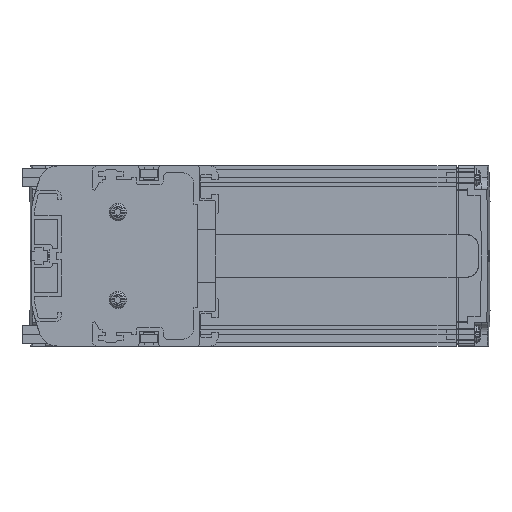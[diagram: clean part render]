
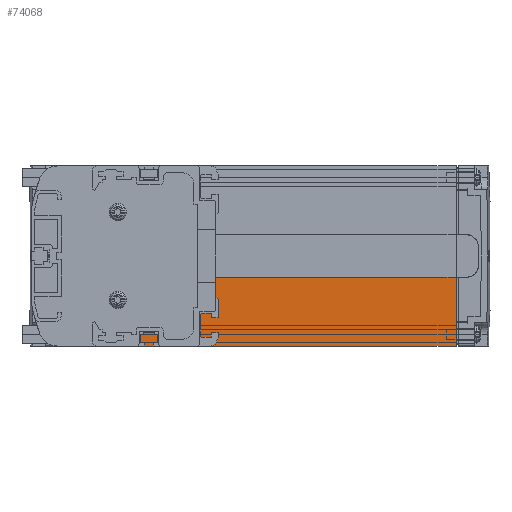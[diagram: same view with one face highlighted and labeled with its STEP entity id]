
A CAD part, left-side view. The second image highlights one B-rep face of the part: STEP entity #74068.
In plain terms, the highlighted planar face has unit normal (-1, 0, 0).
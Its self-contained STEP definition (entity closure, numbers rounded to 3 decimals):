
#72009=DIRECTION('',(0.,1.,0.));
#72010=VECTOR('',#72009,51.);
#72011=CARTESIAN_POINT('',(3.,16.,-27.));
#72012=LINE('',#72011,#72010);
#72658=DIRECTION('',(0.,1.,0.));
#72659=VECTOR('',#72658,170.);
#72660=CARTESIAN_POINT('',(3.,-103.,-39.));
#72661=LINE('',#72660,#72659);
#72676=DIRECTION('',(0.,0.,1.));
#72677=VECTOR('',#72676,29.9);
#72678=CARTESIAN_POINT('',(3.,-103.,-39.));
#72679=LINE('',#72678,#72677);
#72680=DIRECTION('',(0.,0.,-1.));
#72681=VECTOR('',#72680,12.);
#72682=CARTESIAN_POINT('',(3.,67.,-27.));
#72683=LINE('',#72682,#72681);
#72684=DIRECTION('',(0.,0.,-1.));
#72685=VECTOR('',#72684,17.9);
#72686=CARTESIAN_POINT('',(3.,16.,-9.1));
#72687=LINE('',#72686,#72685);
#72794=DIRECTION('',(0.,1.,0.));
#72795=VECTOR('',#72794,119.);
#72796=CARTESIAN_POINT('',(3.,-103.,-9.1));
#72797=LINE('',#72796,#72795);
#72881=CARTESIAN_POINT('',(3.,67.,-27.));
#72883=VERTEX_POINT('',#72881);
#72975=CARTESIAN_POINT('',(3.,67.,-39.));
#72976=VERTEX_POINT('',#72975);
#73049=CARTESIAN_POINT('',(3.,-103.,-39.));
#73050=VERTEX_POINT('',#73049);
#73051=CARTESIAN_POINT('',(3.,-103.,-9.1));
#73052=VERTEX_POINT('',#73051);
#73113=CARTESIAN_POINT('',(3.,16.,-27.));
#73114=VERTEX_POINT('',#73113);
#73115=CARTESIAN_POINT('',(3.,16.,-9.1));
#73116=VERTEX_POINT('',#73115);
#74053=CARTESIAN_POINT('',(3.,-18.,-24.05));
#74054=DIRECTION('',(1.,0.,0.));
#74055=DIRECTION('',(0.,0.,-1.));
#74056=AXIS2_PLACEMENT_3D('',#74053,#74054,#74055);
#74057=PLANE('',#74056);
#74058=ORIENTED_EDGE('',*,*,#73299,.F.);
#74060=ORIENTED_EDGE('',*,*,#74059,.F.);
#74062=ORIENTED_EDGE('',*,*,#74061,.F.);
#74063=ORIENTED_EDGE('',*,*,#73627,.F.);
#74064=ORIENTED_EDGE('',*,*,#74041,.T.);
#74065=ORIENTED_EDGE('',*,*,#73168,.F.);
#74066=EDGE_LOOP('',(#74058,#74060,#74062,#74063,#74064,#74065));
#74067=FACE_OUTER_BOUND('',#74066,.F.);
#74068=ADVANCED_FACE('',(#74067),#74057,.F.);
#73168=EDGE_CURVE('',#72883,#72976,#72683,.T.);
#73299=EDGE_CURVE('',#73114,#72883,#72012,.T.);
#73627=EDGE_CURVE('',#73050,#73052,#72679,.T.);
#74041=EDGE_CURVE('',#73050,#72976,#72661,.T.);
#74059=EDGE_CURVE('',#73116,#73114,#72687,.T.);
#74061=EDGE_CURVE('',#73052,#73116,#72797,.T.);
